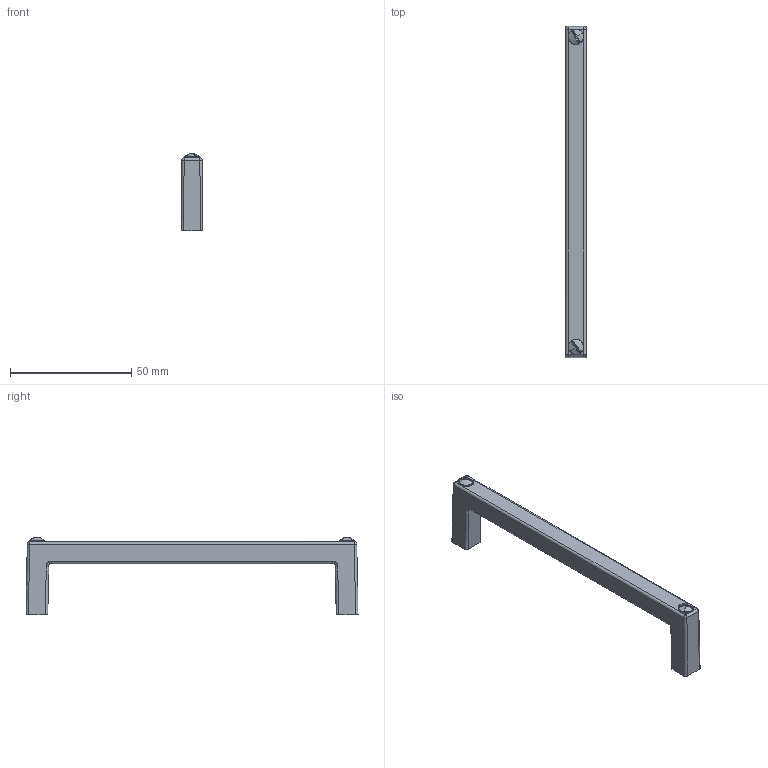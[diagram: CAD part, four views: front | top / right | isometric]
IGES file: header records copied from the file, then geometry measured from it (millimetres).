
Start section: C
Global section: file name: 8291-137.igs; native system: By Siemens PLM Incorporated; preprocessor: XPlus GENERIC/IGES 16.0.42; author: Author; organization: Title; date: 20210203.081750; units: millimetre
Bounding box: 9 x 137 x 31.8 mm (x, y, z)
Surface area: 6996.5 mm2 (no closed solid volume)
Topology: 0 solids, 0 shells, 106 faces, 500 edges, 496 vertices
Faces by surface type: bspline 106
